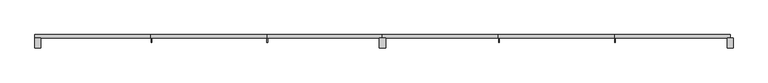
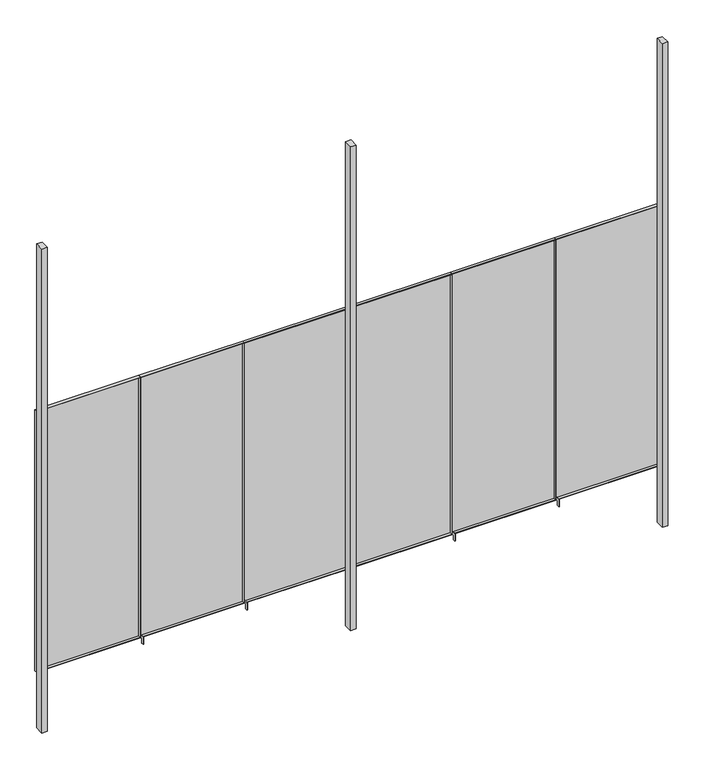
"""IFC4 building model written with IfcOpenShell, lengths in millimetres: furniture geometry, H105 Reja 6 módulos : H105.2 Reja 6 módulos 690x315 CANCHA."""

from ifc_helpers import new_model, si_unit, frame, origin, place, context, project, spatial, polyline, outline, extrude, source, transform, mapped, element, save


def furniture_685e10fb(model_context):
    return source(origin(), model_context, "Body", "SweptSolid", [
        extrude(outline(polyline([(4674.7003264, 468.0), (4614.7003264, 468.0), (4614.7003264, 568.0), (4674.7003264, 568.0), (4674.7003264, 468.0)])), frame((0.0, 0.0, -600.0), z_axis=(0.0, 0.0, 1.0), x_axis=(1.0, 0.0, 0.0)), (0.0, 0.0, 1.0), 5660.0),
        extrude(outline(polyline([(-2195.2996736, 468.0), (-2255.2996736, 468.0), (-2255.2996736, 568.0), (-2195.2996736, 568.0), (-2195.2996736, 468.0)])), frame((0.0, 0.0, -600.0), z_axis=(0.0, 0.0, 1.0), x_axis=(1.0, 0.0, 0.0)), (0.0, 0.0, 1.0), 5660.0),
        extrude(outline(polyline([(1224.7003264, 468.0), (1164.7003264, 468.0), (1164.7003264, 568.0), (1224.7003264, 568.0), (1224.7003264, 468.0)])), frame((0.0, 0.0, -600.0), z_axis=(0.0, 0.0, 1.0), x_axis=(1.0, 0.0, 0.0)), (0.0, 0.0, 1.0), 5660.0),
        extrude(outline(polyline([(3100.0, 3494.7003264), (3100.0, 2344.7003264), (50.0, 2344.7003264), (50.0, 3494.7003264), (3100.0, 3494.7003264)]), holes=[polyline([(3093.0, 3491.2003264), (57.0, 3491.2003264), (57.0, 2348.2003264), (3093.0, 2348.2003264), (3093.0, 3491.2003264)])]), frame((0.0, 568.0, 0.0), z_axis=(0.0, 1.0, 0.0), x_axis=(0.0, 0.0, 1.0)), (0.0, 0.0, 1.0), 32.0),
        extrude(outline(polyline([(3491.2003264, 600.0), (3491.2003264, 597.0), (2348.2003264, 597.0), (2348.2003264, 600.0), (3491.2003264, 600.0)])), frame((0.0, 0.0, 57.0), z_axis=(0.0, 0.0, 1.0), x_axis=(1.0, 0.0, 0.0)), (0.0, 0.0, 1.0), 3036.0),
        extrude(outline(polyline([(3100.0, 2344.7003264), (3100.0, 1194.7003264), (50.0, 1194.7003264), (50.0, 2344.7003264), (3100.0, 2344.7003264)]), holes=[polyline([(3093.0, 2341.2003264), (57.0, 2341.2003264), (57.0, 1198.2003264), (3093.0, 1198.2003264), (3093.0, 2341.2003264)])]), frame((0.0, 568.0, 0.0), z_axis=(0.0, 1.0, 0.0), x_axis=(0.0, 0.0, 1.0)), (0.0, 0.0, 1.0), 32.0),
        extrude(outline(polyline([(2341.2003264, 600.0), (2341.2003264, 597.0), (1198.2003264, 597.0), (1198.2003264, 600.0), (2341.2003264, 600.0)])), frame((0.0, 0.0, 57.0), z_axis=(0.0, 0.0, 1.0), x_axis=(1.0, 0.0, 0.0)), (0.0, 0.0, 1.0), 3036.0),
        extrude(outline(polyline([(3100.0, 44.7003264), (3100.0, -1105.2996736), (50.0, -1105.2996736), (50.0, 44.7003264), (3100.0, 44.7003264)]), holes=[polyline([(3093.0, 41.2003264), (57.0, 41.2003264), (57.0, -1101.7996736), (3093.0, -1101.7996736), (3093.0, 41.2003264)])]), frame((0.0, 568.0, 0.0), z_axis=(0.0, 1.0, 0.0), x_axis=(0.0, 0.0, 1.0)), (0.0, 0.0, 1.0), 32.0),
        extrude(outline(polyline([(4637.7003264, 600.0), (4637.7003264, 597.0), (3498.2003264, 597.0), (3498.2003264, 600.0), (4637.7003264, 600.0)])), frame((0.0, 0.0, 57.0), z_axis=(0.0, 0.0, 1.0), x_axis=(1.0, 0.0, 0.0)), (0.0, 0.0, 1.0), 3036.0),
        extrude(outline(polyline([(3100.0, 4644.7003264), (3100.0, 3494.7003264), (50.0, 3494.7003264), (50.0, 4644.7003264), (3100.0, 4644.7003264)]), holes=[polyline([(3093.0, 4637.7003264), (57.0, 4637.7003264), (57.0, 3498.2003264), (3093.0, 3498.2003264), (3093.0, 4637.7003264)])]), frame((0.0, 568.0, 0.0), z_axis=(0.0, 1.0, 0.0), x_axis=(0.0, 0.0, 1.0)), (0.0, 0.0, 1.0), 32.0),
        extrude(outline(polyline([(1191.2003264, 600.0), (1191.2003264, 597.0), (48.2003264, 597.0), (48.2003264, 600.0), (1191.2003264, 600.0)])), frame((0.0, 0.0, 57.0), z_axis=(0.0, 0.0, 1.0), x_axis=(1.0, 0.0, 0.0)), (0.0, 0.0, 1.0), 3036.0),
        extrude(outline(polyline([(3100.0, 1194.7003264), (3100.0, 44.7003264), (50.0, 44.7003264), (50.0, 1194.7003264), (3100.0, 1194.7003264)]), holes=[polyline([(3093.0, 1191.2003264), (57.0, 1191.2003264), (57.0, 48.2003264), (3093.0, 48.2003264), (3093.0, 1191.2003264)])]), frame((0.0, 568.0, 0.0), z_axis=(0.0, 1.0, 0.0), x_axis=(0.0, 0.0, 1.0)), (0.0, 0.0, 1.0), 32.0),
        extrude(outline(polyline([(41.2003264, 600.0), (41.2003264, 597.0), (-1101.7996736, 597.0), (-1101.7996736, 600.0), (41.2003264, 600.0)])), frame((0.0, 0.0, 57.0), z_axis=(0.0, 0.0, 1.0), x_axis=(1.0, 0.0, 0.0)), (0.0, 0.0, 1.0), 3036.0),
        extrude(outline(polyline([(-1108.7996736, 600.0), (-1108.7996736, 597.0), (-2248.2996736, 597.0), (-2248.2996736, 600.0), (-1108.7996736, 600.0)])), frame((0.0, 0.0, 57.0), z_axis=(0.0, 0.0, 1.0), x_axis=(1.0, 0.0, 0.0)), (0.0, 0.0, 1.0), 3036.0),
        extrude(outline(polyline([(3100.0, -1105.2996736), (3100.0, -2255.2996736), (50.0, -2255.2996736), (50.0, -1105.2996736), (3100.0, -1105.2996736)]), holes=[polyline([(3093.0, -1108.7996736), (57.0, -1108.7996736), (57.0, -2248.2996736), (3093.0, -2248.2996736), (3093.0, -1108.7996736)])]), frame((0.0, 568.0, 0.0), z_axis=(0.0, 1.0, 0.0), x_axis=(0.0, 0.0, 1.0)), (0.0, 0.0, 1.0), 32.0),
        extrude(outline(polyline([(522.0, 82.0), (597.0, 82.0), (597.0, 57.0), (547.0, 57.0), (547.0, 0.0), (522.0, 0.0), (522.0, 82.0)])), frame((2348.2003264, 0.0, 0.0), z_axis=(1.0, 0.0, 0.0), x_axis=(0.0, 1.0, 0.0)), (0.0, 0.0, 1.0), 7.0),
        extrude(outline(polyline([(522.0, 82.0), (597.0, 82.0), (597.0, 57.0), (547.0, 57.0), (547.0, 0.0), (522.0, 0.0), (522.0, 82.0)])), frame((3498.2003264, 0.0, 0.0), z_axis=(1.0, 0.0, 0.0), x_axis=(0.0, 1.0, 0.0)), (0.0, 0.0, 1.0), 7.0),
        extrude(outline(polyline([(522.0, 82.0), (597.0, 82.0), (597.0, 57.0), (547.0, 57.0), (547.0, 0.0), (522.0, 0.0), (522.0, 82.0)])), frame((-1101.7996736, 0.0, 0.0), z_axis=(1.0, 0.0, 0.0), x_axis=(0.0, 1.0, 0.0)), (0.0, 0.0, 1.0), 7.0),
        extrude(outline(polyline([(522.0, 82.0), (597.0, 82.0), (597.0, 57.0), (547.0, 57.0), (547.0, 0.0), (522.0, 0.0), (522.0, 82.0)])), frame((48.2003264, 0.0, 0.0), z_axis=(1.0, 0.0, 0.0), x_axis=(0.0, 1.0, 0.0)), (0.0, 0.0, 1.0), 7.0),
    ])


if __name__ == "__main__":
    model = new_model("IFC4")
    model_context = context("Model", 3, world=origin())
    ifc_project = project(units=[si_unit("LENGTHUNIT", "METRE", prefix="MILLI")], contexts=[model_context])
    site = spatial("IfcSite", under=ifc_project)
    building = spatial("IfcBuilding", under=site)
    placement = place(None, origin())
    furniture_shape = furniture_685e10fb(model_context)
    element("IfcFurniture", 1, ObjectType="H105 Reja 6 módulos : H105.2 Reja 6 módulos 690x315 CANCHA", at=placement, inside=building, context=model_context, shape_type="MappedRepresentation", body=[
        mapped(furniture_shape, transform((0.0, 0.0, 0.0), x_axis=(1.0, 0.0, 0.0), y_axis=(0.0, 1.0, 0.0), z_axis=(0.0, 0.0, 1.0))),
    ])
    save(model, "model.ifc")
